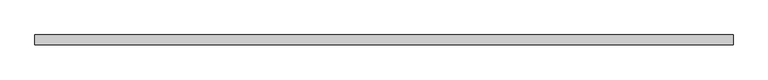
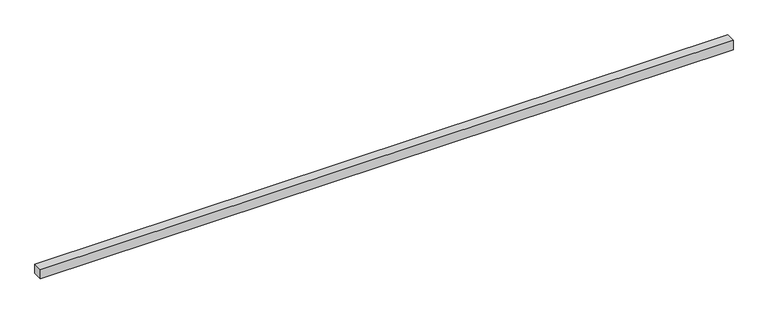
"""IFC4 building model written with IfcOpenShell, lengths in millimetres: beam geometry, Деревянный брус : 50х50."""

import ifcopenshell
import ifcopenshell.guid

model = None  # the IFC model being written
_history = None  # IfcOwnerHistory: only IFC2X3 demands one
_inside = {}  # id of a spatial element -> (the spatial element, [elements in it])
_under = {}  # id of a project, library or spatial element -> (it, [spatial elements below it])
_declared = {}  # id of a project -> (the project, [libraries it declares])
_typed = {}  # id of a type object -> (the type object, [elements of that type])
_made_of = {}  # id of a material, layer set ... -> (it, [elements and type objects made of it])


def new_model(schema):
    """Start an empty IFC model of exactly this schema.

    Asked for "IFC4X3", IfcOpenShell would pick the latest addendum, in which some entities
    have other attributes; the version numbers below select the first issue.
    IFC2X3 requires an IfcOwnerHistory on every rooted entity: one is made here for all.
    """
    global model, _history
    if schema == "IFC4X3":
        model = ifcopenshell.file(schema_version=(4, 3, 0, 0))
    else:
        model = ifcopenshell.file(schema=schema)
    _inside.clear()
    _under.clear()
    _declared.clear()
    _typed.clear()
    _made_of.clear()
    _history = None
    if model.schema == "IFC2X3":
        org = make("IfcOrganization", Name="unknown")
        user = make(
            "IfcPersonAndOrganization",
            ThePerson=make("IfcPerson", FamilyName="unknown"),
            TheOrganization=org,
        )
        app = make(
            "IfcApplication",
            ApplicationDeveloper=org,
            Version="unknown",
            ApplicationFullName="unknown",
            ApplicationIdentifier="unknown",
        )
        _history = make(
            "IfcOwnerHistory",
            OwningUser=user,
            OwningApplication=app,
            ChangeAction="ADDED",
            CreationDate=0,
        )
    return model


def make(cls, **values):
    """One entity of the class cls with the attributes given. An attribute that is None is left unset."""
    return model.create_entity(
        cls, **{name: value for name, value in values.items() if value is not None}
    )


def rooted(cls, **values):
    """An entity with a GlobalId (a new one), such as an element, a storey or a relation."""
    return make(cls, GlobalId=ifcopenshell.guid.new(), OwnerHistory=_history, **values)


def si_unit(unit_type, name, prefix=None):
    """IfcSIUnit, for example si_unit("LENGTHUNIT", "METRE", prefix="MILLI")."""
    return make("IfcSIUnit", UnitType=unit_type, Prefix=prefix, Name=name)


def assignment(units):
    """IfcUnitAssignment: the units of a project."""
    return None if units is None else make("IfcUnitAssignment", Units=units)


def point(xyz):
    """IfcCartesianPoint."""
    return None if xyz is None else make("IfcCartesianPoint", Coordinates=xyz)


def direction(xyz):
    """IfcDirection."""
    return None if xyz is None else make("IfcDirection", DirectionRatios=xyz)


def frame(location, z_axis=None, x_axis=None):
    """IfcAxis2Placement3D, a coordinate frame: its origin and axes. An axis left out is left unset."""
    return make(
        "IfcAxis2Placement3D",
        Location=point(location),
        Axis=direction(z_axis),
        RefDirection=direction(x_axis),
    )


def origin():
    """The frame at (0, 0, 0) with its axes left unset."""
    return frame((0.0, 0.0, 0.0))


def place(relative_to, where):
    """IfcLocalPlacement: puts the frame where relative to a parent placement (None: the world)."""
    return make(
        "IfcLocalPlacement", PlacementRelTo=relative_to, RelativePlacement=where
    )


def context(
    kind, dimensions, precision=None, world=None, true_north=None, identifier=None
):
    """IfcGeometricRepresentationContext, for example the 3D "Model" context."""
    return make(
        "IfcGeometricRepresentationContext",
        ContextIdentifier=identifier,
        ContextType=kind,
        CoordinateSpaceDimension=dimensions,
        Precision=precision,
        WorldCoordinateSystem=world,
        TrueNorth=true_north,
    )


def project(units=None, contexts=None):
    """IfcProject with its units and contexts."""
    return rooted(
        "IfcProject",
        Name="project",
        RepresentationContexts=contexts,
        UnitsInContext=assignment(units),
    )


def spatial(cls, under=None, at=None, **own):
    """A site, building, storey or space (cls), placed at a placement, below another one or the project."""
    s = rooted(cls, ObjectPlacement=at, **own)
    if under is not None:
        _under.setdefault(under.id(), (under, []))[1].append(s)
    return s


def polyline(points):
    """IfcPolyline through the points."""
    return make("IfcPolyline", Points=[point(p) for p in points])


def outline(outer, holes=None, kind="AREA"):
    """IfcArbitraryClosedProfileDef: a profile drawn as a closed curve; with holes, ...WithVoids."""
    if holes is None:
        return make("IfcArbitraryClosedProfileDef", ProfileType=kind, OuterCurve=outer)
    return make(
        "IfcArbitraryProfileDefWithVoids",
        ProfileType=kind,
        OuterCurve=outer,
        InnerCurves=holes,
    )


def extrude(swept, where, along, depth):
    """IfcExtrudedAreaSolid: the profile swept, set in the frame where, extruded along a direction by depth."""
    return make(
        "IfcExtrudedAreaSolid",
        SweptArea=swept,
        Position=where,
        ExtrudedDirection=direction(along),
        Depth=depth,
    )


def shape(context_of_items, identifier, shape_type, items):
    """IfcShapeRepresentation: the items that make up one representation, for example the "Body"."""
    return make(
        "IfcShapeRepresentation",
        ContextOfItems=context_of_items,
        RepresentationIdentifier=identifier,
        RepresentationType=shape_type,
        Items=items,
    )


def source(mapping_origin, context_of_items, identifier, shape_type, items):
    """IfcRepresentationMap: a shape defined once, which mapped items show again and again."""
    return make(
        "IfcRepresentationMap",
        MappingOrigin=mapping_origin,
        MappedRepresentation=shape(context_of_items, identifier, shape_type, items),
    )


def transform(
    local_origin,
    x_axis=None,
    y_axis=None,
    z_axis=None,
    scale=None,
    scale2=None,
    scale3=None,
    uniform=True,
):
    """IfcCartesianTransformationOperator3D, or its non-uniform kind. x_axis, y_axis, z_axis: its Axis1, 2, 3."""
    if uniform:
        return make(
            "IfcCartesianTransformationOperator3D",
            Axis1=direction(x_axis),
            Axis2=direction(y_axis),
            LocalOrigin=point(local_origin),
            Scale=scale,
            Axis3=direction(z_axis),
        )
    return make(
        "IfcCartesianTransformationOperator3DnonUniform",
        Axis1=direction(x_axis),
        Axis2=direction(y_axis),
        LocalOrigin=point(local_origin),
        Scale=scale,
        Axis3=direction(z_axis),
        Scale2=scale2,
        Scale3=scale3,
    )


def mapped(mapping_source, mapping_target):
    """IfcMappedItem: shows the shape of a source again, moved by a transform."""
    return make(
        "IfcMappedItem", MappingSource=mapping_source, MappingTarget=mapping_target
    )


def made_of(thing, what):
    """Note that an element or type object is made of a material, layer set ...; save() writes the relation."""
    if what is not None:
        _made_of.setdefault(what.id(), (what, []))[1].append(thing)
    return thing


def element(
    cls,
    number,
    at=None,
    inside=None,
    cuts=None,
    type_object=None,
    material=None,
    context=None,
    identifier="Body",
    shape_type=None,
    held_by="IfcProductDefinitionShape",
    body=None,
    shapes=None,
    **own,
):
    """One element of the class cls, such as IfcWall. Its Tag is "e" and its number.

    at: its placement. inside: the storey or other place that contains it. cuts: it is an
    opening in that element (IfcRelVoidsElement). A single representation is given by context,
    identifier, shape_type and body (its items); several are given by shapes. held_by: the class
    of the entity that holds the representations. save() writes the other relations.
    """
    e = rooted(cls, Tag="e%d" % number, ObjectPlacement=at, **own)
    if body is not None:
        shapes = [shape(context, identifier, shape_type, body)]
    if shapes is not None:
        e.Representation = make(held_by, Representations=shapes)
    if inside is not None:
        _inside.setdefault(inside.id(), (inside, []))[1].append(e)
    if cuts is not None:
        rooted(
            "IfcRelVoidsElement", RelatingBuildingElement=cuts, RelatedOpeningElement=e
        )
    if type_object is not None:
        _typed.setdefault(type_object.id(), (type_object, []))[1].append(e)
    return made_of(e, material)


def aggregate(whole, parts):
    """IfcRelAggregates: a whole, such as a stair, and the parts it consists of."""
    return rooted("IfcRelAggregates", RelatingObject=whole, RelatedObjects=parts)


def save(model, path):
    """Write the relations noted so far, then the file.

    IfcRelAggregates (storeys below a building ...), IfcRelContainedInSpatialStructure (elements
    in a storey), IfcRelDefinesByType, IfcRelAssociatesMaterial and IfcRelDeclares: one each for
    every whole, place, type object, material and project.
    """
    for whole, parts in _under.values():
        aggregate(whole, parts)
    for where, things in _inside.values():
        rooted(
            "IfcRelContainedInSpatialStructure",
            RelatedElements=things,
            RelatingStructure=where,
        )
    for kind, things in _typed.values():
        rooted("IfcRelDefinesByType", RelatedObjects=things, RelatingType=kind)
    for what, things in _made_of.values():
        rooted("IfcRelAssociatesMaterial", RelatedObjects=things, RelatingMaterial=what)
    for by, libraries in _declared.values():
        rooted("IfcRelDeclares", RelatingContext=by, RelatedDefinitions=libraries)
    model.write(path)


def beam_54a566a4(model_context):
    return source(origin(), model_context, "Body", "SweptSolid", [
        extrude(outline(polyline([(1800.0, 25.0), (1800.0, -25.0), (-1800.0, -25.0), (-1800.0, 25.0), (1800.0, 25.0)])), frame((0.0, 0.0, -25.0), z_axis=(0.0, 0.0, 1.0), x_axis=(1.0, 0.0, 0.0)), (0.0, 0.0, 1.0), 50.0),
    ])


if __name__ == "__main__":
    model = new_model("IFC4")
    model_context = context("Model", 3, world=origin())
    ifc_project = project(units=[si_unit("LENGTHUNIT", "METRE", prefix="MILLI")], contexts=[model_context])
    site = spatial("IfcSite", under=ifc_project)
    building = spatial("IfcBuilding", under=site)
    placement = place(None, origin())
    beam_shape = beam_54a566a4(model_context)
    element("IfcBeam", 1, ObjectType="Деревянный брус : 50х50", at=placement, inside=building, context=model_context, shape_type="MappedRepresentation", body=[
        mapped(beam_shape, transform((0.0, 0.0, 0.0), x_axis=(1.0, 0.0, 0.0), y_axis=(0.0, 1.0, 0.0), z_axis=(0.0, 0.0, 1.0))),
    ])
    save(model, "model.ifc")
